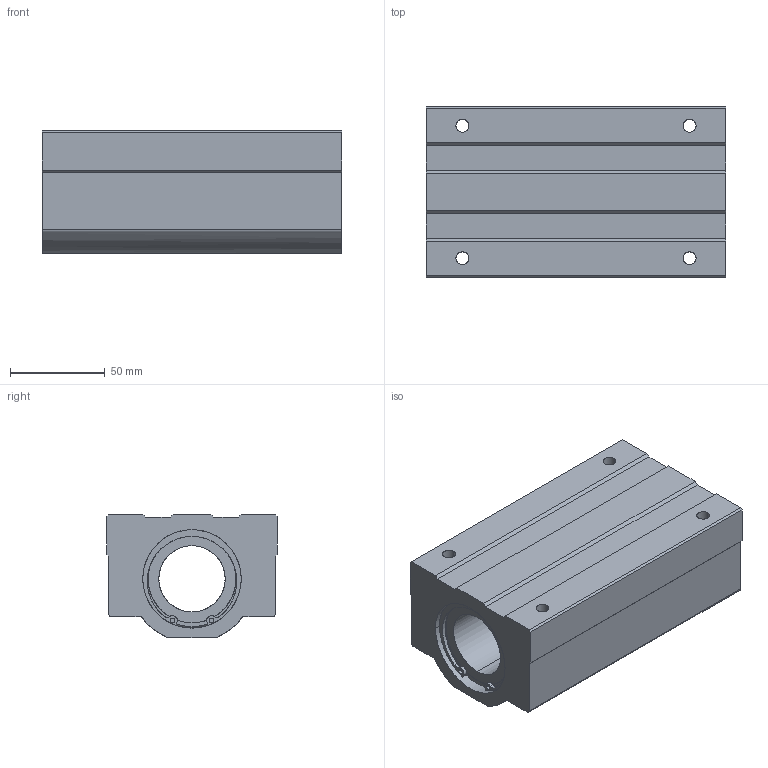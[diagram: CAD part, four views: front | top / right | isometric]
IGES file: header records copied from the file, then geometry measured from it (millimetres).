
Global section: file name: No Iges File Name specified; native system: AutoDesk Inventor R11.0; preprocessor: AutoDesk Inventor Iges Exporter R11.0; author: No Author specified; organization: No Organization specified; date: 20170921.153334; units: millimetre
Bounding box: 158 x 90 x 65 mm (x, y, z)
Surface area: 81021.1 mm2 (no closed solid volume)
Topology: 0 solids, 0 shells, 106 faces, 772 edges, 772 vertices
Faces by surface type: bspline 106
